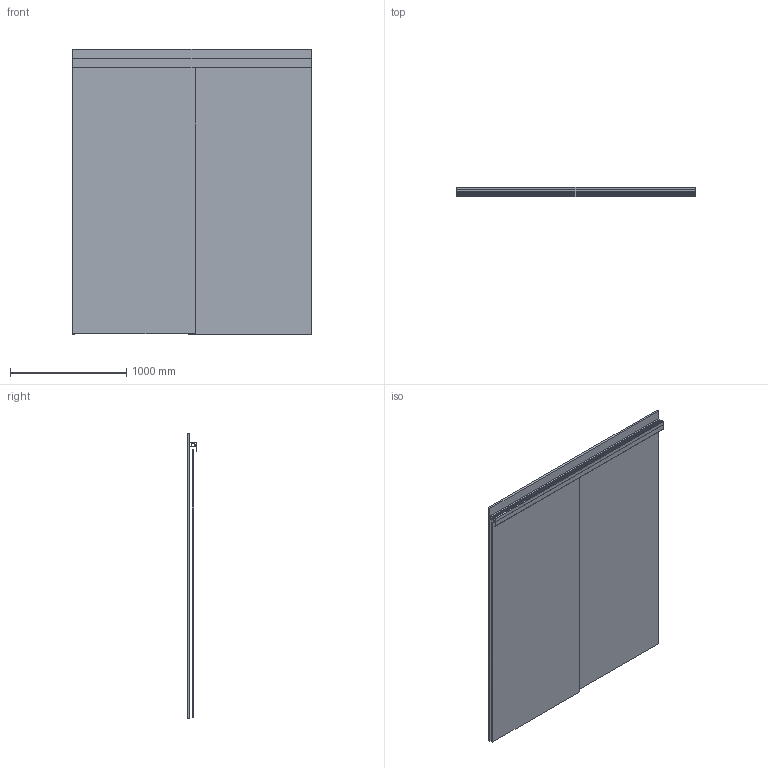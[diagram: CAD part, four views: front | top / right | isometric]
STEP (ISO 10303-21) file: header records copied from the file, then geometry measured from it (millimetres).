
FILE_DESCRIPTION(('STEP AP242'),'1');
FILE_NAME('OPO_56.047.05_volu_schn_3d.stp','2026-01-14T05:21:49',(' '),(' '),'Spatial InterOp 3D',' ',' ');
FILE_SCHEMA(('AP242_MANAGED_MODEL_BASED_3D_ENGINEERING_MIM_LF {1 0 10303 442 1 1 4}'));
Length unit declared in the file: millimetre
Products named in the file (1): 1
Bounding box: 2050 x 80 x 2448 mm (x, y, z)
Volume: 78329444.2 mm3; surface area: 11914898.3 mm2
Topology: 4 solids, 4 shells, 164 faces, 3368 edges, 6074 vertices
Faces by surface type: plane 124, cylinder 40
Entity records: 42326 total; most frequent: DIRECTION 4195, CARTESIAN_POINT 4183, STYLED_ITEM 3092, PRESENTATION_STYLE_ASSIGNMENT 3092, COLOUR_RGB 3092, COMPOSITE_CURVE 2928, CURVE_STYLE 2928, COMPOSITE_CURVE_SEGMENT 2928
